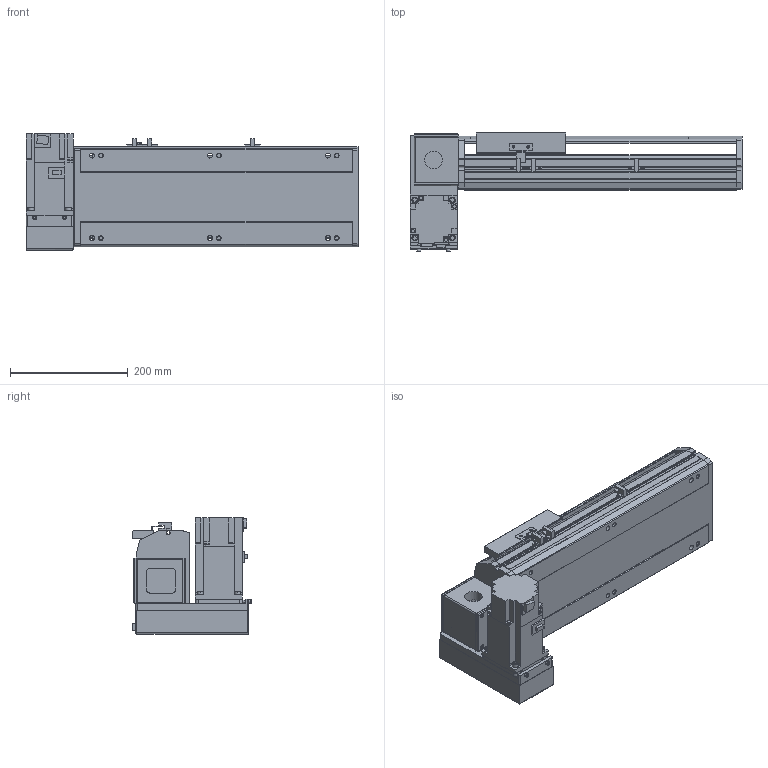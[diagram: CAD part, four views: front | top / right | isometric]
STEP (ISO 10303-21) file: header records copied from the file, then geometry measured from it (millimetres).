
FILE_DESCRIPTION(/* description */ ('STEP AP214'),/* implementation_level */ '2;1');
FILE_NAME(/* name */ 'PBS170-P40-S200-LD-T75-C1-N(0)',/* time_stamp */ '2022-06-07T09:50:06+02:00',/* author */ ('License CC BY-ND 4.0'),/* organization */ ('CADENAS'),/* preprocessor_version */ 'ST-DEVELOPER v18.102',/* originating_system */ 'PARTsolutions',/* authorisation */ ' ');
FILE_SCHEMA (('AUTOMOTIVE_DESIGN {1 0 10303 214 3 1 1}'));
Length unit declared in the file: millimetre
Products named in the file (7): PBS170-P40-S200-LD-T75-C1-N(0); PBS170_sensor; PBS170_plant; PBS170_sliser; T75-p1; PBS170T-LD_motors; PBS170-S200()_body
Assembly tree (8 placements, depth 2):
  PBS170-P40-S200-LD-T75-C1-N(0)
    PBS170_sensor  x3
    PBS170_plant
    PBS170_sliser
    T75-p1
    PBS170T-LD_motors
    PBS170-S200()_body
Bounding box: 563 x 201 x 197.3 mm (x, y, z)
Volume: 5292425.6 mm3; surface area: 751561.9 mm2
Topology: 8 solids, 8 shells, 1002 faces, 2675 edges, 1744 vertices
Faces by surface type: plane 657, cylinder 299, cone 36, sphere 8, torus 2
Full cylindrical faces by diameter (mm): 3.242 x4, 4 x2, 4.4 x4, 4.5 x6, 4.917 x4, 6 x9, 6.647 x14, 7 x2, 7.5 x4, 8 x8, 8.5 x6, 10 x4, 10.5 x6, 11 x2, 30 x2, 40 x1, 70 x1
Entity records: 28828 total; most frequent: CARTESIAN_POINT 5153, DIRECTION 4950, ORIENTED_EDGE 4728, EDGE_CURVE 2364, AXIS2_PLACEMENT_3D 1687, VERTEX_POINT 1610, LINE 1576, VECTOR 1576
